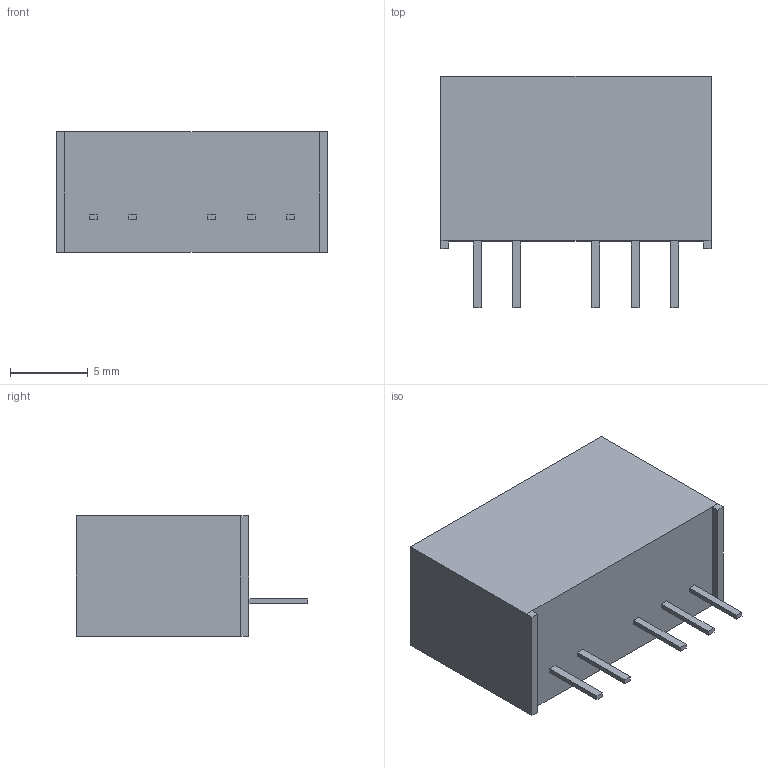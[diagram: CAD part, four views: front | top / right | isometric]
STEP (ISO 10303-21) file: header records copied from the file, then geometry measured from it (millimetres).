
FILE_DESCRIPTION(('FreeCAD Model'),'2;1');
FILE_NAME('Open CASCADE Shape Model','2025-02-24T14:17:46',(''),(''), 'Open CASCADE STEP processor 7.6','FreeCAD','Unknown');
FILE_SCHEMA(('AUTOMOTIVE_DESIGN { 1 0 10303 214 1 1 1 1 }'));
Length unit declared in the file: millimetre
Products named in the file (7): PWD_E; case; pin 1; pin 2; pin 4; pin 6; pin 5
Assembly tree (6 placements, depth 2):
  PWD_E
    case
    pin 1
    pin 2
    pin 4
    pin 6
    pin 5
Bounding box: 17.4 x 14.91 x 7.75 mm (x, y, z)
Volume: 1436.5 mm3; surface area: 855.4 mm2
Topology: 6 solids, 6 shells, 46 faces, 94 edges, 60 vertices
Faces by surface type: plane 46
Entity records: 2567 total; most frequent: CARTESIAN_POINT 395, DIRECTION 388, LINE 282, VECTOR 282, ORIENTED_EDGE 188, PCURVE 188, DEFINITIONAL_REPRESENTATION 188, EDGE_CURVE 94
